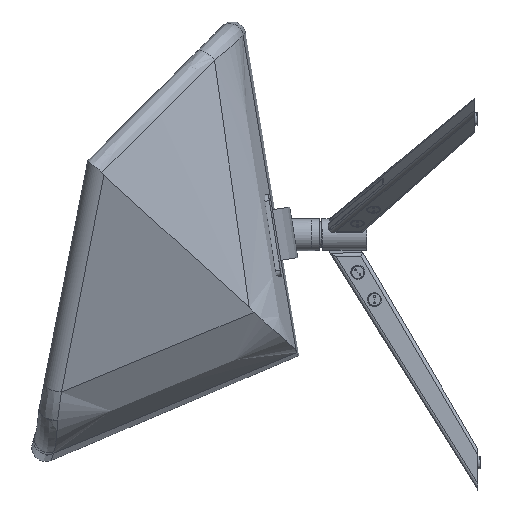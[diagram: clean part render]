
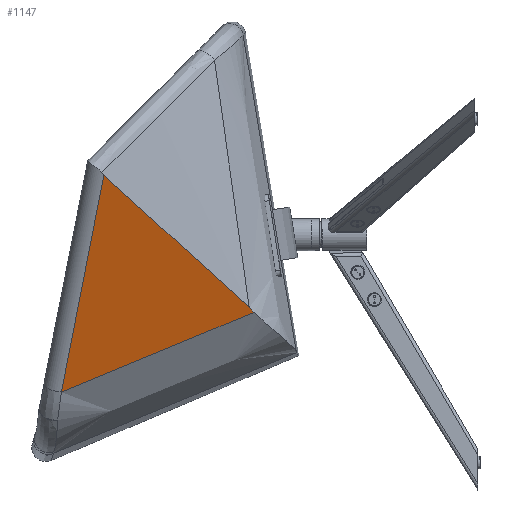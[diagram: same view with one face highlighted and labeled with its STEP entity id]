
A CAD part, left-side view. The second image highlights one B-rep face of the part: STEP entity #1147.
In plain terms, the highlighted planar face has unit normal (-0.893, -0.253, -0.372).
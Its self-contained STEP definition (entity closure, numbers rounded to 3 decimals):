
#1070 = EDGE_CURVE ( 'NONE', #1109, #1110, #15778, .T. ) ;
#1107 = EDGE_LOOP ( 'NONE', ( #1150, #1149, #1148, #1135 ) ) ;
#1109 = VERTEX_POINT ( 'NONE', #15944 ) ;
#1110 = VERTEX_POINT ( 'NONE', #15940 ) ;
#1135 = ORIENTED_EDGE ( 'NONE', *, *, #1157, .F. ) ;
#1147 = ADVANCED_FACE ( 'NONE', ( #16099 ), #16133, .F. ) ;
#1148 = ORIENTED_EDGE ( 'NONE', *, *, #1154, .T. ) ;
#1149 = ORIENTED_EDGE ( 'NONE', *, *, #1151, .F. ) ;
#1150 = ORIENTED_EDGE ( 'NONE', *, *, #1070, .F. ) ;
#1151 = EDGE_CURVE ( 'NONE', #1166, #1109, #16116, .T. ) ;
#1154 = EDGE_CURVE ( 'NONE', #1166, #1165, #16158, .T. ) ;
#1157 = EDGE_CURVE ( 'NONE', #1110, #1165, #16113, .T. ) ;
#1165 = VERTEX_POINT ( 'NONE', #16172 ) ;
#1166 = VERTEX_POINT ( 'NONE', #16174 ) ;
#15767 = CARTESIAN_POINT ( 'NONE',  ( -290.948, 651.331, -262.1 ) ) ;
#15768 = CARTESIAN_POINT ( 'NONE',  ( -288.273, 626.294, -251.462 ) ) ;
#15769 = CARTESIAN_POINT ( 'NONE',  ( -285.571, 601.237, -240.877 ) ) ;
#15770 = CARTESIAN_POINT ( 'NONE',  ( -280.098, 551.075, -219.838 ) ) ;
#15771 = CARTESIAN_POINT ( 'NONE',  ( -277.328, 525.971, -209.384 ) ) ;
#15772 = CARTESIAN_POINT ( 'NONE',  ( -271.723, 475.719, -188.601 ) ) ;
#15773 = CARTESIAN_POINT ( 'NONE',  ( -268.888, 450.57, -178.271 ) ) ;
#15774 = CARTESIAN_POINT ( 'NONE',  ( -263.17, 400.24, -157.705 ) ) ;
#15775 = CARTESIAN_POINT ( 'NONE',  ( -260.288, 375.059, -147.469 ) ) ;
#15776 = CARTESIAN_POINT ( 'NONE',  ( -257.395, 349.87, -137.253 ) ) ;
#15778 = B_SPLINE_CURVE_WITH_KNOTS ( 'NONE', 3,
 ( #15776, #15775, #15774, #15773, #15772, #15771, #15770, #15769, #15768, #15767 ),
 .UNSPECIFIED., .F., .F.,
 ( 4, 2, 2, 2, 4 ),
 ( 0., 0.082, 0.164, 0.246, 0.328 ),
 .UNSPECIFIED. ) ;
#15940 = CARTESIAN_POINT ( 'NONE',  ( -290.948, 651.331, -262.1 ) ) ;
#15944 = CARTESIAN_POINT ( 'NONE',  ( -257.395, 349.87, -137.253 ) ) ;
#16095 = CARTESIAN_POINT ( 'NONE',  ( 0., 3393.961, -2829.728 ) ) ;
#16099 = FACE_OUTER_BOUND ( 'NONE', #1107, .T. ) ;
#16105 = AXIS2_PLACEMENT_3D ( 'NONE', #16095, #16136, #16119 ) ;
#16109 = CARTESIAN_POINT ( 'NONE',  ( -257.395, 349.87, -137.253 ) ) ;
#16110 = CARTESIAN_POINT ( 'NONE',  ( -259.167, 352.328, -134.671 ) ) ;
#16111 = CARTESIAN_POINT ( 'NONE',  ( -260.939, 354.882, -132.157 ) ) ;
#16112 = CARTESIAN_POINT ( 'NONE',  ( -262.709, 357.554, -129.726 ) ) ;
#16113 = LINE ( 'NONE', #16144, #16143 ) ;
#16116 = B_SPLINE_CURVE_WITH_KNOTS ( 'NONE', 3,
 ( #16112, #16111, #16110, #16109 ),
 .UNSPECIFIED., .F., .F.,
 ( 4, 4 ),
 ( 0., 0.012 ),
 .UNSPECIFIED. ) ;
#16119 = DIRECTION ( 'NONE',  ( -0.384, 0., 0.923 ) ) ;
#16133 = PLANE ( 'NONE',  #16105 ) ;
#16136 = DIRECTION ( 'NONE',  ( 0.893, 0.253, 0.372 ) ) ;
#16143 = VECTOR ( 'NONE', #16177, 1000. ) ;
#16144 = CARTESIAN_POINT ( 'NONE',  ( 700.172, 1189.368, -3008.916 ) ) ;
#16146 = CARTESIAN_POINT ( 'NONE',  ( -413.355, 584.882, 77.142 ) ) ;
#16147 = CARTESIAN_POINT ( 'NONE',  ( -400.801, 565.937, 59.905 ) ) ;
#16148 = CARTESIAN_POINT ( 'NONE',  ( -388.247, 546.994, 42.664 ) ) ;
#16149 = CARTESIAN_POINT ( 'NONE',  ( -363.139, 509.107, 8.185 ) ) ;
#16150 = CARTESIAN_POINT ( 'NONE',  ( -350.586, 490.162, -9.053 ) ) ;
#16151 = CARTESIAN_POINT ( 'NONE',  ( -325.478, 452.273, -43.53 ) ) ;
#16152 = CARTESIAN_POINT ( 'NONE',  ( -312.924, 433.33, -60.77 ) ) ;
#16153 = CARTESIAN_POINT ( 'NONE',  ( -287.817, 395.443, -95.249 ) ) ;
#16154 = CARTESIAN_POINT ( 'NONE',  ( -275.263, 376.498, -112.487 ) ) ;
#16155 = CARTESIAN_POINT ( 'NONE',  ( -262.709, 357.554, -129.726 ) ) ;
#16158 = B_SPLINE_CURVE_WITH_KNOTS ( 'NONE', 3,
 ( #16155, #16154, #16153, #16152, #16151, #16150, #16149, #16148, #16147, #16146 ),
 .UNSPECIFIED., .F., .F.,
 ( 4, 2, 2, 2, 4 ),
 ( 0.107, 0.193, 0.278, 0.364, 0.449 ),
 .UNSPECIFIED. ) ;
#16172 = CARTESIAN_POINT ( 'NONE',  ( -413.355, 584.882, 77.142 ) ) ;
#16174 = CARTESIAN_POINT ( 'NONE',  ( -262.709, 357.554, -129.726 ) ) ;
#16177 = DIRECTION ( 'NONE',  ( -0.334, -0.181, 0.925 ) ) ;
